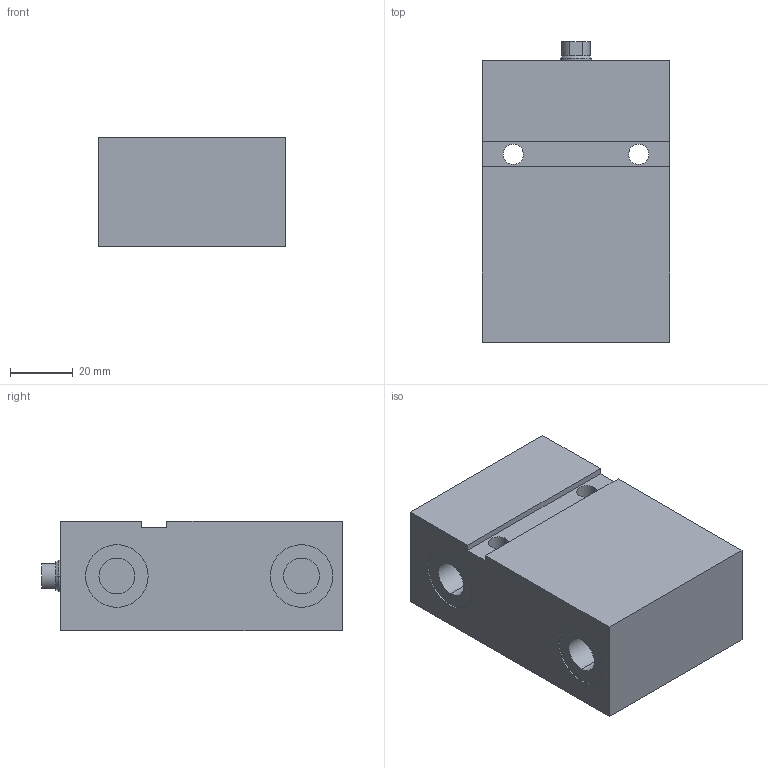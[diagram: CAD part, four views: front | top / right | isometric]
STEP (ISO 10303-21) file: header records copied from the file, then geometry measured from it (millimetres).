
FILE_DESCRIPTION (( 'STEP AP203' ), '1' );
FILE_NAME ('GERMA_Blockzylinder_602-016-050.STEP', '2015-07-16T12:27:11', ( '' ), ( '' ), 'SwSTEP 2.0', 'SolidWorks 2015', '' );
FILE_SCHEMA (( 'CONFIG_CONTROL_DESIGN' ));
Length unit declared in the file: millimetre
Products named in the file (3): GH-600-016_GH-602-016-050; Kolben 60x-016_Kolben DU.16-Hub50-IG; GERMA_Blockzylinder_602-016-050
Assembly tree (2 placements, depth 2):
  GERMA_Blockzylinder_602-016-050
    GH-600-016_GH-602-016-050
    Kolben 60x-016_Kolben DU.16-Hub50-IG
Bounding box: 60 x 96 x 35 mm (x, y, z)
Volume: 176426.8 mm3; surface area: 31306.8 mm2
Topology: 2 solids, 2 shells, 71 faces, 156 edges, 96 vertices
Faces by surface type: cylinder 31, plane 26, cone 14
Entity records: 2236 total; most frequent: DIRECTION 377, CARTESIAN_POINT 322, ORIENTED_EDGE 300, AXIS2_PLACEMENT_3D 151, EDGE_CURVE 150, VERTEX_POINT 96, EDGE_LOOP 88, LINE 75
